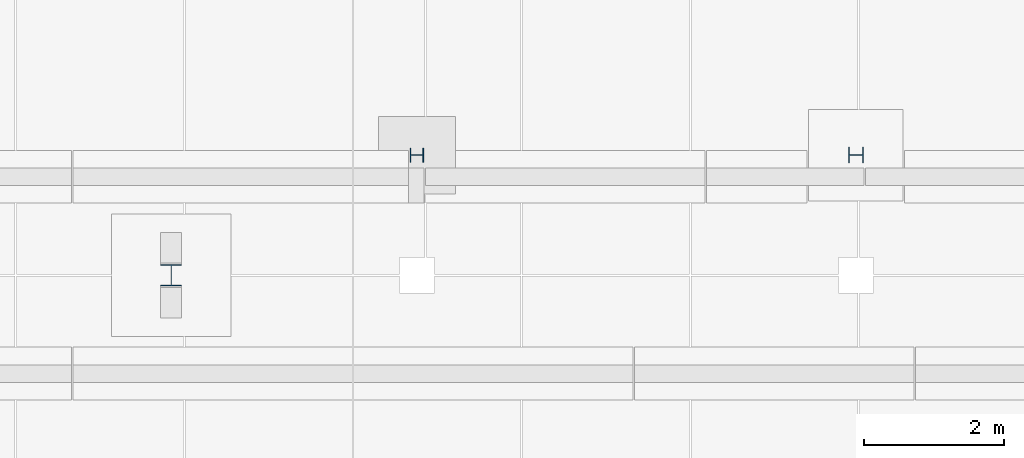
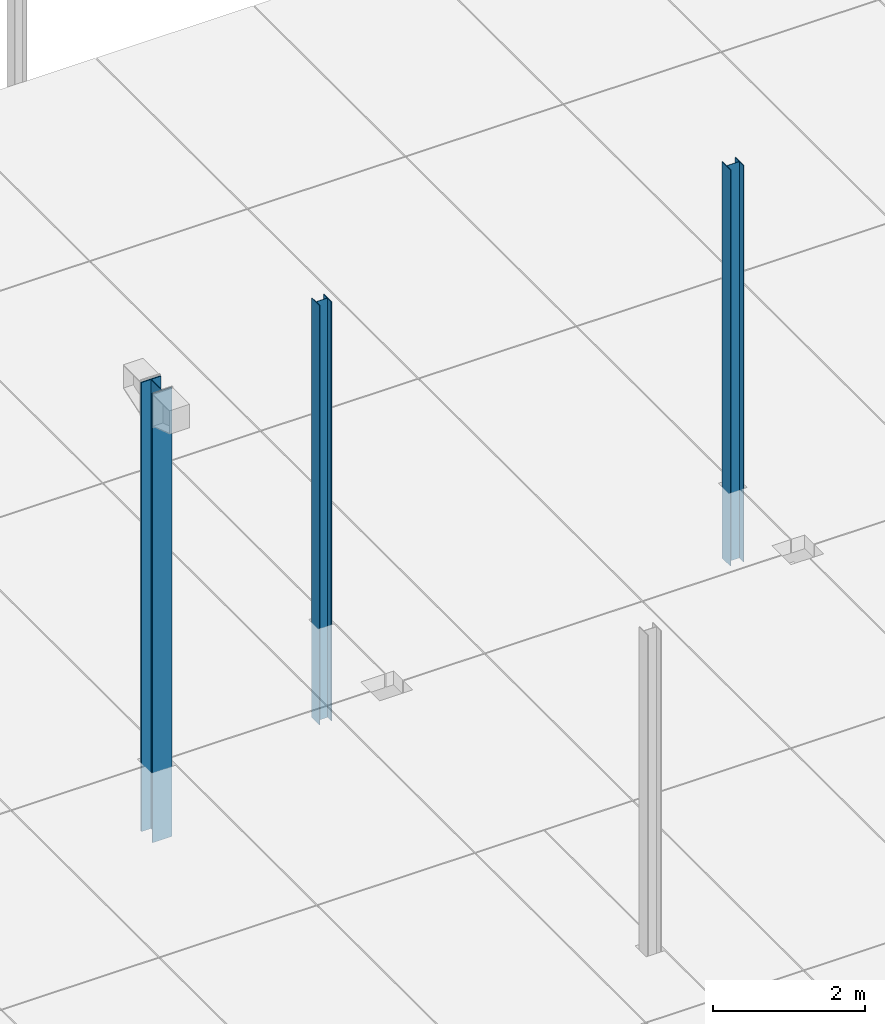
# One storey, part 26 of 59: 3 columns.
"""IFC2X3 building model written with IfcOpenShell, lengths in metres."""

from ifc_helpers import new_model, entity, si_unit, converted_unit, derived_unit, frame, origin, origin_with_axes, place, context, subcontext, project, spatial, polyline, outline, extrude, material, element, save


model = new_model("IFC2X3")

# Units and contexts
model_context = context("Model", 3, precision=1e-05, world=origin())
body_context = subcontext(model_context, "Body", "Model", "MODEL_VIEW")
ifc_project = project(units=[si_unit("LENGTHUNIT", "METRE"), si_unit("AREAUNIT", "SQUARE_METRE"), si_unit("VOLUMEUNIT", "CUBIC_METRE"), si_unit("MASSUNIT", "GRAM", prefix="KILO"), converted_unit("PLANEANGLEUNIT", "DEGREE", entity("IfcPlaneAngleMeasure", 0.0174532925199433), si_unit("PLANEANGLEUNIT", "RADIAN"), dimensions=[0, 0, 0, 0, 0, 0, 0]), derived_unit("THERMALTRANSMITTANCEUNIT", [(si_unit("POWERUNIT", "WATT"), 1), (si_unit("THERMODYNAMICTEMPERATUREUNIT", "KELVIN"), -1), (si_unit("LENGTHUNIT", "METRE"), -2)]), derived_unit("VOLUMETRICFLOWRATEUNIT", [(si_unit("LENGTHUNIT", "METRE"), 3), (converted_unit("TIMEUNIT", "hour", entity("IfcTimeMeasure", 3600.0), si_unit("TIMEUNIT", "SECOND"), dimensions=[0, 0, 1, 0, 0, 0, 0]), -1), (si_unit("LENGTHUNIT", "METRE"), -1)])], contexts=[model_context])

# Site, building, storey
site_placement = place(None, origin())
site = spatial("IfcSite", under=ifc_project, at=site_placement, Name="TWP_Speiseverteilzentrum SBW VZ II", CompositionType="ELEMENT")
building_placement = place(site_placement, origin())
building = spatial("IfcBuilding", under=site, at=building_placement, Name="Speiseverteilzentrum SBW VZ II", CompositionType="ELEMENT")
storey_placement = place(building_placement, frame((0.0, 0.0, 1.7307)))
storey = spatial("IfcBuildingStorey", under=building, at=storey_placement, Name="EG_Produktion_FFB", CompositionType="ELEMENT", Elevation=1.7307)

# Columns
ifc_material_1 = material(Name="S235")
column_1_placement = place(storey_placement, frame((22.405, 72.0095015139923, -1.82)))
element("IfcColumn", 1, at=column_1_placement, inside=storey, material=ifc_material_1, Name="Stahlstütze", context=body_context, shape_type="SweptSolid", body=[
    extrude(outline(polyline([(0.19, 0.0), (0.19, 0.2), (0.18, 0.2), (0.18, 0.10325), (0.01, 0.10325), (0.01, 0.2), (0.0, 0.2), (0.0, 0.0), (0.01, 0.0), (0.01, 0.09675), (0.18, 0.09675), (0.18, 0.0), (0.19, 0.0)])), origin_with_axes(), (0.0, 0.0, 1.0), 6.74),
])
ifc_material_2 = material(Name="S235")
column_2_placement = place(storey_placement, frame((18.8499999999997, 70.2451031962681, -1.4)))
element("IfcColumn", 2, at=column_2_placement, inside=storey, material=ifc_material_2, Name="Stahlstütze", context=body_context, shape_type="SweptSolid", body=[
    extrude(outline(polyline([(0.0, 0.0), (0.3, 0.0), (0.3, 0.0155), (0.1545, 0.0155), (0.1545, 0.2945), (0.3, 0.2945), (0.3, 0.31), (0.0, 0.31), (0.0, 0.2945), (0.1455, 0.2945), (0.1455, 0.0155), (0.0, 0.0155), (0.0, 0.0)])), origin_with_axes(), (0.0, 0.0, 1.0), 7.2193),
])
ifc_material_3 = material(Name="S235")
column_3_placement = place(storey_placement, frame((28.6485, 71.9995015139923, -1.45)))
element("IfcColumn", 3, at=column_3_placement, inside=storey, material=ifc_material_3, Name="Stahlstütze", context=body_context, shape_type="SweptSolid", body=[
    extrude(outline(polyline([(0.21, 0.0), (0.21, 0.22), (0.199, 0.22), (0.199, 0.1135), (0.011, 0.1135), (0.011, 0.22), (0.0, 0.22), (0.0, 0.0), (0.011, 0.0), (0.011, 0.1065), (0.199, 0.1065), (0.199, 0.0), (0.21, 0.0)])), origin_with_axes(), (0.0, 0.0, 1.0), 6.37),
])

save(model, "model.ifc")
